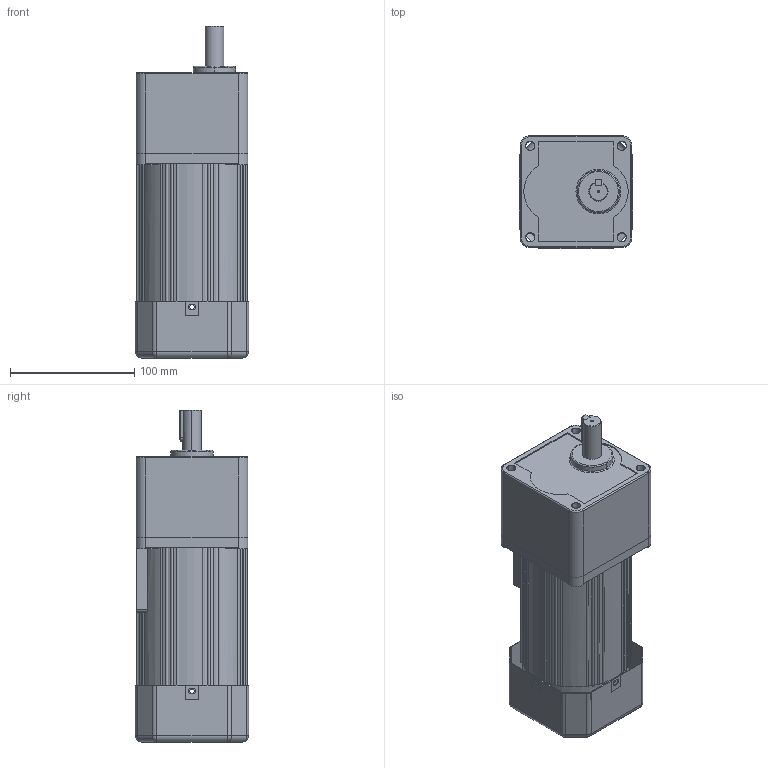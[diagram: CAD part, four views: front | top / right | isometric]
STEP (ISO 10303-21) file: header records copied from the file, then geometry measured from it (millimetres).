
FILE_DESCRIPTION (( 'STEP AP203' ), '1' );
FILE_NAME ('140W 定速 调速 不带耳朵 15轴.STEP', '2017-12-27T08:23:10', ( 'XYDIY' ), ( 'XIAOYIN.Com' ), 'SwSTEP 2.0', 'SolidWorks 2014', '' );
FILE_SCHEMA (( 'CONFIG_CONTROL_DESIGN' ));
Length unit declared in the file: millimetre
Products named in the file (1): 140W 定速  调速  不带耳朵 15轴
Bounding box: 91 x 91 x 267 mm (x, y, z)
Surface area: 148950.8 mm2 (no closed solid volume)
Topology: 0 solids, 9 shells, 412 faces, 1267 edges, 846 vertices
Faces by surface type: cylinder 273, plane 117, torus 11, sphere 8, cone 3
Entity records: 14796 total; most frequent: CARTESIAN_POINT 3192, DIRECTION 2628, ORIENTED_EDGE 2147, EDGE_CURVE 1263, AXIS2_PLACEMENT_3D 988, VERTEX_POINT 846, LINE 652, VECTOR 652
